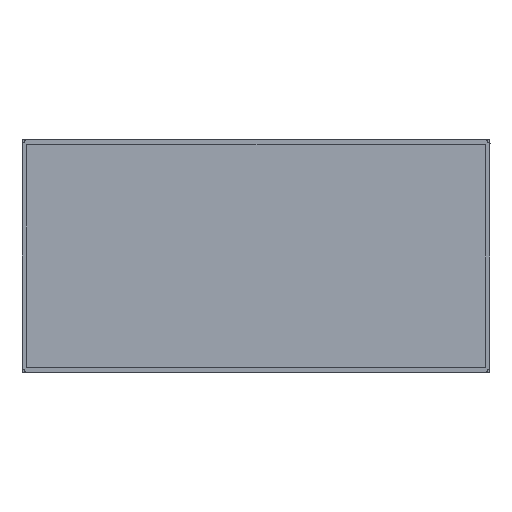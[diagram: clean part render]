
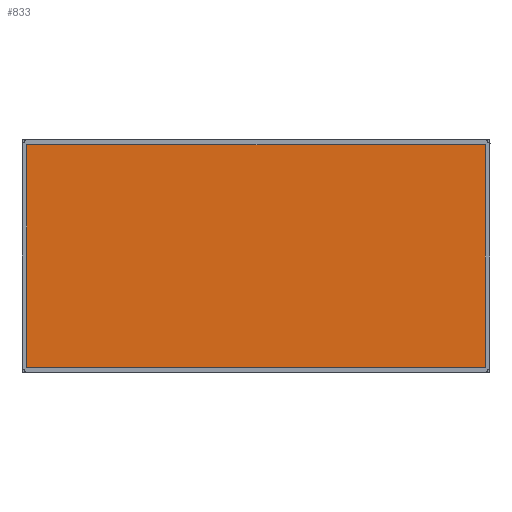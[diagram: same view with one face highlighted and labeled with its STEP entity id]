
A CAD part, front view. The second image highlights one B-rep face of the part: STEP entity #833.
In plain terms, the highlighted planar face has unit normal (0, -1, 0).
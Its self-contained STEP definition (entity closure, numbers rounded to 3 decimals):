
#105=FACE_OUTER_BOUND('',#158,.T.);
#158=EDGE_LOOP('',(#673,#674,#675,#676,#677));
#180=LINE('',#1155,#266);
#183=LINE('',#1227,#269);
#184=LINE('',#1230,#270);
#215=LINE('',#1388,#301);
#236=LINE('',#1943,#322);
#266=VECTOR('',#936,283.);
#269=VECTOR('',#941,10.);
#270=VECTOR('',#944,283.);
#301=VECTOR('',#1025,10.);
#322=VECTOR('',#1072,10.);
#348=VERTEX_POINT('',#1146);
#352=VERTEX_POINT('',#1153);
#356=VERTEX_POINT('',#1224);
#357=VERTEX_POINT('',#1229);
#390=VERTEX_POINT('',#1385);
#430=EDGE_CURVE('',#352,#348,#180,.T.);
#435=EDGE_CURVE('',#348,#356,#183,.T.);
#436=EDGE_CURVE('',#356,#357,#184,.T.);
#481=EDGE_CURVE('',#390,#352,#215,.T.);
#511=EDGE_CURVE('',#390,#357,#236,.T.);
#673=ORIENTED_EDGE('',*,*,#481,.F.);
#674=ORIENTED_EDGE('',*,*,#511,.T.);
#675=ORIENTED_EDGE('',*,*,#436,.F.);
#676=ORIENTED_EDGE('',*,*,#435,.F.);
#677=ORIENTED_EDGE('',*,*,#430,.F.);
#792=PLANE('',#906);
#833=ADVANCED_FACE('',(#105),#792,.F.);
#906=AXIS2_PLACEMENT_3D('',#1945,#1075,#1076);
#936=DIRECTION('',(0.,0.,1.));
#941=DIRECTION('',(1.,0.,0.));
#944=DIRECTION('',(0.,0.,-1.));
#1025=DIRECTION('',(0.,0.,1.));
#1072=DIRECTION('',(1.,0.,0.));
#1075=DIRECTION('center_axis',(0.,1.,0.));
#1076=DIRECTION('ref_axis',(0.,0.,1.));
#1146=CARTESIAN_POINT('',(2669.443,-9.6,62.487));
#1153=CARTESIAN_POINT('',(2669.443,-9.6,-219.513));
#1155=CARTESIAN_POINT('',(2669.443,-9.6,-220.513));
#1224=CARTESIAN_POINT('',(3252.443,-9.6,62.487));
#1227=CARTESIAN_POINT('',(2669.443,-9.6,62.487));
#1229=CARTESIAN_POINT('',(3252.443,-9.6,-220.513));
#1230=CARTESIAN_POINT('',(3252.443,-9.6,62.487));
#1385=CARTESIAN_POINT('',(2669.443,-9.6,-220.513));
#1388=CARTESIAN_POINT('',(2669.443,-9.6,-220.513));
#1943=CARTESIAN_POINT('',(3251.443,-9.6,-220.513));
#1945=CARTESIAN_POINT('Origin',(2810.943,-9.6,67.107));
